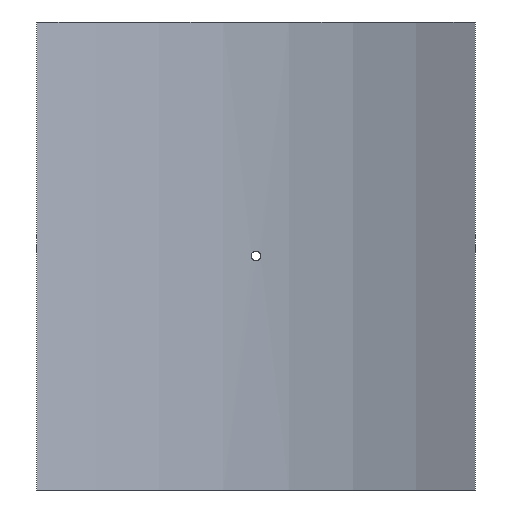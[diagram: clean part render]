
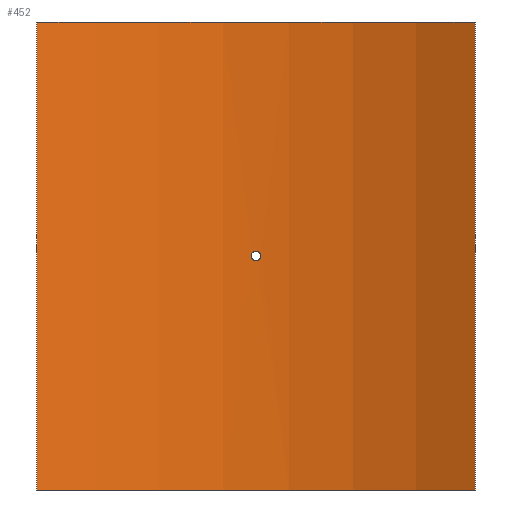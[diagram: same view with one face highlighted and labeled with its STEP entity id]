
A CAD part, front view. The second image highlights one B-rep face of the part: STEP entity #452.
In plain terms, the highlighted cylindrical face has radius 450 mm (diameter 900 mm), a partial arc.
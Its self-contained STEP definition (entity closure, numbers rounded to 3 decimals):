
#19=B_SPLINE_CURVE_WITH_KNOTS('',3,(#788,#789,#790,#791,#792,#793,#794,
#795,#796,#797,#798,#799,#800,#801,#802,#803,#804,#805,#806,#807,#808,#809,
#810,#811,#812,#813,#814,#815,#816,#817,#818,#819,#820,#821),
 .UNSPECIFIED.,.T.,.F.,(4,2,2,2,2,2,2,2,2,2,2,2,2,2,2,2,4),(0.,0.181,
0.362,0.542,0.723,0.904,
1.085,1.266,1.446,1.627,1.808,
1.989,2.17,2.351,2.531,2.712,
2.893),.UNSPECIFIED.);
#43=LINE('',#1065,#62);
#44=LINE('',#1068,#63);
#62=VECTOR('',#661,10.);
#63=VECTOR('',#664,10.);
#76=CYLINDRICAL_SURFACE('',#530,450.);
#88=FACE_BOUND('',#167,.T.);
#127=FACE_OUTER_BOUND('',#166,.T.);
#166=EDGE_LOOP('',(#405,#406,#407,#408));
#167=EDGE_LOOP('',(#409));
#201=CIRCLE('',#529,450.);
#202=CIRCLE('',#531,450.);
#219=VERTEX_POINT('',#786);
#242=VERTEX_POINT('',#1058);
#243=VERTEX_POINT('',#1060);
#244=VERTEX_POINT('',#1064);
#245=VERTEX_POINT('',#1066);
#267=EDGE_CURVE('',#219,#219,#19,.T.);
#299=EDGE_CURVE('',#242,#243,#201,.T.);
#301=EDGE_CURVE('',#244,#242,#43,.T.);
#302=EDGE_CURVE('',#245,#244,#202,.T.);
#303=EDGE_CURVE('',#245,#243,#44,.T.);
#405=ORIENTED_EDGE('',*,*,#301,.F.);
#406=ORIENTED_EDGE('',*,*,#302,.F.);
#407=ORIENTED_EDGE('',*,*,#303,.T.);
#408=ORIENTED_EDGE('',*,*,#299,.F.);
#409=ORIENTED_EDGE('',*,*,#267,.T.);
#452=ADVANCED_FACE('',(#127,#88),#76,.F.);
#529=AXIS2_PLACEMENT_3D('',#1061,#656,#657);
#530=AXIS2_PLACEMENT_3D('',#1063,#659,#660);
#531=AXIS2_PLACEMENT_3D('',#1067,#662,#663);
#656=DIRECTION('center_axis',(0.,0.,1.));
#657=DIRECTION('ref_axis',(0.489,0.872,0.));
#659=DIRECTION('center_axis',(0.,0.,1.));
#660=DIRECTION('ref_axis',(0.489,0.872,0.));
#661=DIRECTION('',(0.,0.,-1.));
#662=DIRECTION('center_axis',(0.,0.,-1.));
#663=DIRECTION('ref_axis',(0.489,0.872,0.));
#664=DIRECTION('',(0.,0.,-1.));
#786=CARTESIAN_POINT('',(4.8,449.974,0.));
#788=CARTESIAN_POINT('Ctrl Pts',(4.8,449.974,0.));
#789=CARTESIAN_POINT('Ctrl Pts',(4.8,449.974,-0.603));
#790=CARTESIAN_POINT('Ctrl Pts',(4.68,449.976,-1.246));
#791=CARTESIAN_POINT('Ctrl Pts',(4.19,449.981,-2.428));
#792=CARTESIAN_POINT('Ctrl Pts',(3.82,449.984,-2.968));
#793=CARTESIAN_POINT('Ctrl Pts',(2.968,449.99,-3.82));
#794=CARTESIAN_POINT('Ctrl Pts',(2.428,449.994,-4.19));
#795=CARTESIAN_POINT('Ctrl Pts',(1.246,449.999,-4.68));
#796=CARTESIAN_POINT('Ctrl Pts',(0.603,450.,-4.8));
#797=CARTESIAN_POINT('Ctrl Pts',(-0.603,450.,-4.8));
#798=CARTESIAN_POINT('Ctrl Pts',(-1.246,449.999,-4.68));
#799=CARTESIAN_POINT('Ctrl Pts',(-2.428,449.994,-4.19));
#800=CARTESIAN_POINT('Ctrl Pts',(-2.968,449.99,-3.82));
#801=CARTESIAN_POINT('Ctrl Pts',(-3.82,449.984,-2.968));
#802=CARTESIAN_POINT('Ctrl Pts',(-4.19,449.981,-2.428));
#803=CARTESIAN_POINT('Ctrl Pts',(-4.68,449.976,-1.246));
#804=CARTESIAN_POINT('Ctrl Pts',(-4.8,449.974,-0.603));
#805=CARTESIAN_POINT('Ctrl Pts',(-4.8,449.974,0.603));
#806=CARTESIAN_POINT('Ctrl Pts',(-4.68,449.976,1.246));
#807=CARTESIAN_POINT('Ctrl Pts',(-4.19,449.981,2.428));
#808=CARTESIAN_POINT('Ctrl Pts',(-3.82,449.984,2.968));
#809=CARTESIAN_POINT('Ctrl Pts',(-2.968,449.99,3.82));
#810=CARTESIAN_POINT('Ctrl Pts',(-2.428,449.994,4.19));
#811=CARTESIAN_POINT('Ctrl Pts',(-1.246,449.999,4.68));
#812=CARTESIAN_POINT('Ctrl Pts',(-0.603,450.,4.8));
#813=CARTESIAN_POINT('Ctrl Pts',(0.603,450.,4.8));
#814=CARTESIAN_POINT('Ctrl Pts',(1.246,449.999,4.68));
#815=CARTESIAN_POINT('Ctrl Pts',(2.428,449.994,4.19));
#816=CARTESIAN_POINT('Ctrl Pts',(2.968,449.99,3.82));
#817=CARTESIAN_POINT('Ctrl Pts',(3.82,449.984,2.968));
#818=CARTESIAN_POINT('Ctrl Pts',(4.19,449.981,2.428));
#819=CARTESIAN_POINT('Ctrl Pts',(4.68,449.976,1.246));
#820=CARTESIAN_POINT('Ctrl Pts',(4.8,449.974,0.603));
#821=CARTESIAN_POINT('Ctrl Pts',(4.8,449.974,0.));
#1058=CARTESIAN_POINT('',(220.,392.556,-235.));
#1060=CARTESIAN_POINT('',(-220.,392.556,-235.));
#1061=CARTESIAN_POINT('Origin',(0.,0.,
-235.));
#1063=CARTESIAN_POINT('Origin',(0.,0.,
0.));
#1064=CARTESIAN_POINT('',(220.,392.556,235.));
#1065=CARTESIAN_POINT('',(220.,392.556,0.));
#1066=CARTESIAN_POINT('',(-220.,392.556,235.));
#1067=CARTESIAN_POINT('Origin',(0.,0.,
235.));
#1068=CARTESIAN_POINT('',(-220.,392.556,0.));
